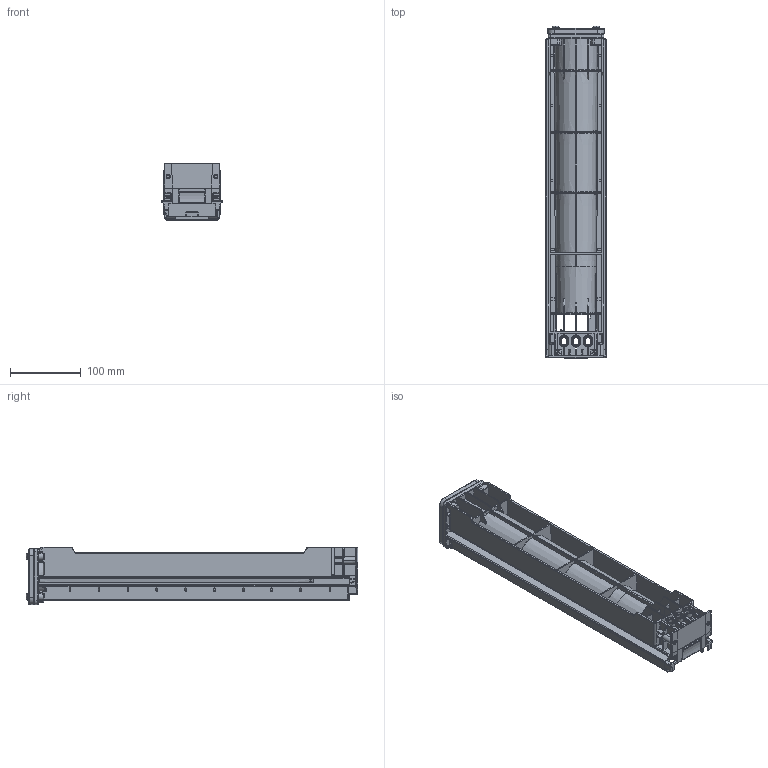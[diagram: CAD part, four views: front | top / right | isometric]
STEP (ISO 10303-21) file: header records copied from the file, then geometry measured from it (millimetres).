
FILE_DESCRIPTION (( 'STEP AP203' ), '1' );
FILE_NAME ('E299609.STEP', '2025-03-27T13:52:46', ( '' ), ( '' ), 'SwSTEP 2.0', 'SolidWorks 2023', '' );
FILE_SCHEMA (( 'CONFIG_CONTROL_DESIGN' ));
Length unit declared in the file: millimetre
Products named in the file (1): E299609
Bounding box: 85.91 x 470.13 x 81 mm (x, y, z)
Surface area: 346567.9 mm2 (no closed solid volume)
Topology: 0 solids, 12 shells, 1538 faces, 5125 edges, 3376 vertices
Faces by surface type: cylinder 572, plane 559, bspline 263, cone 71, torus 66, sphere 7
Entity records: 68327 total; most frequent: CARTESIAN_POINT 28896, ORIENTED_EDGE 8556, DIRECTION 7173, EDGE_CURVE 5105, VERTEX_POINT 3376, LINE 2635, VECTOR 2635, AXIS2_PLACEMENT_3D 2269
